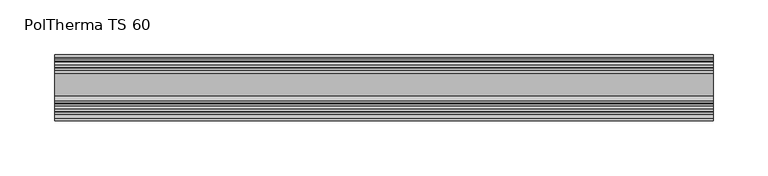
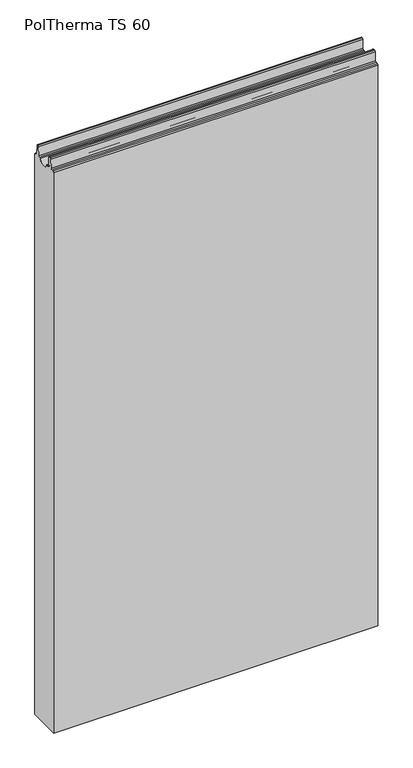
"""IFC4 building model written with IfcOpenShell, lengths in millimetres: plate geometry, Europanels_Poltherma TS_Hz : PolTherma TS 60."""

from ifc_helpers import new_model, si_unit, frame, origin, place, context, project, spatial, polyline, circle_curve, source, transform, mapped, element, save
from ifc_brep_helpers import plane_surface, cylinder_surface, revolved_surface, advanced_brep


def poltherma_ts_60_b4b8779d(model_context):
    return source(origin(), model_context, "Body", "AdvancedBrep", [
        advanced_brep(
        [(300.0, -30.0, 1096.5011047), (300.0, -30.0, 0.0), (300.0, 30.0, 0.0), (300.0, 30.0, 1096.5011047), (300.0, 28.0, 1098.5011047), (300.0, 26.2557869, 1098.5011047), (300.0, 24.2596673, 1100.3765791), (300.0, 23.1836057, 1117.6256302), (300.0, 20.8891901, 1119.5129093), (300.0, 18.8727407, 1117.5838246), (300.0, 18.1120505, 1100.4152514), (300.0, 16.113894, 1098.5011047), (300.0, 13.3234285, 1098.5011047), (300.0, -7.9234285, 1098.5011047), (300.0, -11.9117672, 1098.5011047), (300.0, -13.7101357, 1100.2244834), (300.0, -14.4498501, 1117.5862394), (300.0, -16.4480373, 1119.5011047), (300.0, -19.1874198, 1119.5011047), (300.0, -21.1836192, 1117.624345), (300.0, -22.2483736, 1100.3778643), (300.0, -24.244573, 1098.5011047), (300.0, -28.0, 1098.5011047), (-300.0, -30.0, 1096.5011047), (-300.0, -28.0, 1098.5011047), (-300.0, -24.244573, 1098.5011047), (-300.0, -22.2483736, 1100.3778643), (-300.0, -21.1836192, 1117.624345), (-300.0, -19.1874198, 1119.5011047), (-300.0, -16.4480373, 1119.5011047), (-300.0, -14.4498501, 1117.5862394), (-300.0, -13.7101357, 1100.2244834), (-300.0, -11.9117672, 1098.5011047), (-300.0, -7.9234285, 1098.5011047), (-300.0, 13.3234285, 1098.5011047), (-300.0, 16.113894, 1098.5011047), (-300.0, 18.1120505, 1100.4152514), (-300.0, 18.8727407, 1117.5838246), (-300.0, 20.8891901, 1119.5129093), (-300.0, 23.1349611, 1117.6366155), (-300.0, 24.2596673, 1100.3765791), (-300.0, 26.2557869, 1098.5011047), (-300.0, 28.0, 1098.5011047), (-300.0, 30.0, 1096.5011047), (-300.0, 30.0, 0.0), (-300.0, -30.0, 0.0)],
        [
            (0, 1),
            (1, 2),
            (2, 3),
            (3, 4, circle_curve(frame((300.0, 28.0, 1096.5011047), z_axis=(1.0, 0.0, 0.0), x_axis=(0.0, 1.0, 0.0)), 2.0)),
            (4, 5),
            (5, 6, circle_curve(frame((300.0, 26.2557869, 1100.5011047), z_axis=(-1.0, 0.0, 0.0), x_axis=(0.0, 1.0, 0.0)), 2.0)),
            (6, 7),
            (7, 8, circle_curve(frame((300.0, 21.1234323, 1117.5111287), z_axis=(1.0, 0.0, 0.0), x_axis=(0.0, 1.0, 0.0)), 2.0154391)),
            (8, 9, circle_curve(frame((300.0, 20.8891901, 1117.4944815), z_axis=(1.0, 0.0, 0.0), x_axis=(0.0, 1.0, 0.0)), 2.0184277)),
            (9, 10),
            (10, 11, circle_curve(frame((300.0, 16.113894, 1100.5011047), z_axis=(-1.0, 0.0, 0.0), x_axis=(0.0, 1.0, 0.0)), 2.0)),
            (11, 12),
            (12, 13, circle_curve(frame((300.0, 2.7, 1101.354658), z_axis=(-1.0, 0.0, 0.0), x_axis=(0.0, 1.0, 0.0)), 11.0)),
            (13, 14),
            (14, 15, circle_curve(frame((300.0, -11.9117672, 1100.3011047), z_axis=(-1.0, 0.0, 0.0), x_axis=(0.0, 1.0, 0.0)), 1.8)),
            (15, 16),
            (16, 17, circle_curve(frame((300.0, -16.4480373, 1117.5011047), z_axis=(1.0, 0.0, 0.0), x_axis=(0.0, 1.0, 0.0)), 2.0)),
            (17, 18),
            (18, 19, circle_curve(frame((300.0, -19.1874198, 1117.5011047), z_axis=(1.0, 0.0, 0.0), x_axis=(0.0, 1.0, 0.0)), 2.0)),
            (19, 20),
            (20, 21, circle_curve(frame((300.0, -24.244573, 1100.5011047), z_axis=(-1.0, 0.0, 0.0), x_axis=(0.0, 1.0, 0.0)), 2.0)),
            (21, 22),
            (22, 0, circle_curve(frame((300.0, -28.0, 1096.5011047), z_axis=(1.0, 0.0, 0.0), x_axis=(0.0, 1.0, 0.0)), 2.0)),
            (23, 24, circle_curve(frame((-300.0, -28.0, 1096.5011047), z_axis=(-1.0, 0.0, 0.0), x_axis=(0.0, 1.0, 0.0)), 2.0)),
            (24, 25),
            (25, 26, circle_curve(frame((-300.0, -24.244573, 1100.5011047), z_axis=(1.0, 0.0, 0.0), x_axis=(0.0, 1.0, 0.0)), 2.0)),
            (26, 27),
            (27, 28, circle_curve(frame((-300.0, -19.1874198, 1117.5011047), z_axis=(-1.0, 0.0, 0.0), x_axis=(0.0, 1.0, 0.0)), 2.0)),
            (28, 29),
            (29, 30, circle_curve(frame((-300.0, -16.4480373, 1117.5011047), z_axis=(-1.0, 0.0, 0.0), x_axis=(0.0, 1.0, 0.0)), 2.0)),
            (30, 31),
            (31, 32, circle_curve(frame((-300.0, -11.9117672, 1100.3011047), z_axis=(1.0, 0.0, 0.0), x_axis=(0.0, 1.0, 0.0)), 1.8)),
            (32, 33),
            (33, 34, circle_curve(frame((-300.0, 2.7, 1101.354658), z_axis=(1.0, 0.0, 0.0), x_axis=(0.0, 1.0, 0.0)), 11.0)),
            (34, 35),
            (35, 36, circle_curve(frame((-300.0, 16.113894, 1100.5011047), z_axis=(1.0, 0.0, 0.0), x_axis=(0.0, 1.0, 0.0)), 2.0)),
            (36, 37),
            (37, 38, circle_curve(frame((-300.0, 20.8891901, 1117.4944815), z_axis=(-1.0, 0.0, 0.0), x_axis=(0.0, 1.0, 0.0)), 2.0184277)),
            (38, 39, circle_curve(frame((-300.0, 21.1234323, 1117.5111287), z_axis=(-1.0, 0.0, 0.0), x_axis=(0.0, 1.0, 0.0)), 2.0154391)),
            (39, 40),
            (40, 41, circle_curve(frame((-300.0, 26.2557869, 1100.5011047), z_axis=(1.0, 0.0, 0.0), x_axis=(0.0, 1.0, 0.0)), 2.0)),
            (41, 42),
            (42, 43, circle_curve(frame((-300.0, 28.0, 1096.5011047), z_axis=(-1.0, 0.0, 0.0), x_axis=(0.0, 1.0, 0.0)), 2.0)),
            (43, 44),
            (44, 45),
            (45, 23),
            (0, 23),
            (45, 1),
            (2, 44),
            (43, 3),
            (42, 4),
            (41, 5),
            (40, 6),
            (39, 7),
            (38, 8),
            (37, 9),
            (36, 10),
            (35, 11),
            (34, 12),
            (33, 13),
            (32, 14),
            (31, 15),
            (30, 16),
            (29, 17),
            (28, 18),
            (27, 19),
            (26, 20),
            (25, 21),
            (24, 22),
        ],
        [
            plane_surface(frame((300.0, -30.0, 0.0), z_axis=(1.0, 0.0, 0.0), x_axis=(0.0, 0.0, -1.0))),
            plane_surface(frame((-300.0, -30.0, 0.0), z_axis=(-1.0, 0.0, 0.0), x_axis=(0.0, 0.0, 1.0))),
            plane_surface(frame((300.0, -30.0, 1096.5011047), z_axis=(0.0, -1.0, 0.0), x_axis=(-1.0, 0.0, 0.0))),
            plane_surface(frame((300.0, 30.0, 0.0), z_axis=(0.0, 1.0, 0.0), x_axis=(-1.0, 0.0, 0.0))),
            cylinder_surface(frame((-300.0, 28.0, 1096.5011047), z_axis=(1.0, 0.0, 0.0), x_axis=(0.0, 1.0, 0.0)), 2.0),
            plane_surface(frame((300.0, 28.0, 1098.5011047), z_axis=(0.0, 1.862502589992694e-12, 1.0), x_axis=(-1.0, 0.0, 0.0))),
            revolved_surface(polyline([(-300.0, 28.2557869, 1100.5011047), (300.0, 28.2557869, 1100.5011047)]), (-300.0, 26.2557869, 1100.5011047), (-1.0, 0.0, 0.0)),
            plane_surface(frame((300.0, 24.2596673, 1100.3765791), z_axis=(0.0, 0.9980597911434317, 0.06226277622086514), x_axis=(-1.0, 0.0, 0.0))),
            cylinder_surface(frame((-300.0, 21.1234323, 1117.5111287), z_axis=(1.0, 0.0, 0.0), x_axis=(0.0, 1.0, 0.0)), 2.0154391),
            cylinder_surface(frame((-300.0, 20.8891901, 1117.4944815), z_axis=(1.0, 0.0, 0.0), x_axis=(0.0, 1.0, 0.0)), 2.0184277),
            plane_surface(frame((300.0, 18.8727407, 1117.5838246), z_axis=(0.0, -0.9990198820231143, 0.04426370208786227), x_axis=(-1.0, 0.0, 0.0))),
            revolved_surface(polyline([(-300.0, 18.113894, 1100.5011047), (300.0, 18.113894, 1100.5011047)]), (-300.0, 16.113894, 1100.5011047), (-1.0, 0.0, 0.0)),
            plane_surface(frame((300.0, 16.113894, 1098.5011047), z_axis=(0.0, 0.0, 1.0), x_axis=(-1.0, 0.0, 0.0))),
            revolved_surface(polyline([(-300.0, 13.7, 1101.354658), (300.0, 13.7, 1101.354658)]), (-300.0, 2.7, 1101.354658), (-1.0, 0.0, 0.0)),
            plane_surface(frame((300.0, -7.9234285, 1098.5011047), z_axis=(0.0, 0.0, 1.0), x_axis=(-1.0, 0.0, 0.0))),
            revolved_surface(polyline([(-300.0, -10.1117672, 1100.3011047), (300.0, -10.1117672, 1100.3011047)]), (-300.0, -11.9117672, 1100.3011047), (-1.0, 0.0, 0.0)),
            plane_surface(frame((300.0, -13.7101357, 1100.2244834), z_axis=(0.0, 0.9990935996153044, 0.04256734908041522), x_axis=(-1.0, 0.0, 0.0))),
            cylinder_surface(frame((-300.0, -16.4480373, 1117.5011047), z_axis=(1.0, 0.0, 0.0), x_axis=(0.0, 1.0, 0.0)), 2.0),
            plane_surface(frame((300.0, -16.4480373, 1119.5011047), z_axis=(0.0, 0.0, 1.0), x_axis=(-1.0, 0.0, 0.0))),
            cylinder_surface(frame((-300.0, -19.1874198, 1117.5011047), z_axis=(1.0, 0.0, 0.0), x_axis=(0.0, 1.0, 0.0)), 2.0),
            plane_surface(frame((300.0, -21.1836192, 1117.624345), z_axis=(0.0, -0.9980996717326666, 0.06162016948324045), x_axis=(-1.0, 0.0, 0.0))),
            revolved_surface(polyline([(-300.0, -22.244573, 1100.5011047), (300.0, -22.244573, 1100.5011047)]), (-300.0, -24.244573, 1100.5011047), (-1.0, 0.0, 0.0)),
            plane_surface(frame((300.0, -24.244573, 1098.5011047), z_axis=(0.0, 0.0, 1.0), x_axis=(-1.0, 0.0, 0.0))),
            cylinder_surface(frame((-300.0, -28.0, 1096.5011047), z_axis=(1.0, 0.0, 0.0), x_axis=(0.0, 1.0, 0.0)), 2.0),
            plane_surface(frame((300.0, -30.0, 0.0), z_axis=(0.0, 0.0, -1.0), x_axis=(-1.0, 0.0, 0.0))),
        ],
        [
            (0, [[1, 2, 3, 4, 5, 6, 7, 8, 9, 10, 11, 12, 13, 14, 15, 16, 17, 18, 19, 20, 21, 22, 23]]),
            (1, [[24, 25, 26, 27, 28, 29, 30, 31, 32, 33, 34, 35, 36, 37, 38, 39, 40, 41, 42, 43, 44, 45, 46]]),
            (2, [[-1, 47, -46, 48]]),
            (3, [[-3, 49, -44, 50]]),
            (4, [[-4, -50, -43, 51]]),
            (5, [[-5, -51, -42, 52]]),
            (6, [[-6, -52, -41, 53]]),
            (7, [[-7, -53, -40, 54]]),
            (8, [[-8, -54, -39, 55]]),
            (9, [[-9, -55, -38, 56]]),
            (10, [[-10, -56, -37, 57]]),
            (11, [[-11, -57, -36, 58]]),
            (12, [[-12, -58, -35, 59]]),
            (13, [[-13, -59, -34, 60]]),
            (14, [[-14, -60, -33, 61]]),
            (15, [[-15, -61, -32, 62]]),
            (16, [[-16, -62, -31, 63]]),
            (17, [[-17, -63, -30, 64]]),
            (18, [[-18, -64, -29, 65]]),
            (19, [[-19, -65, -28, 66]]),
            (20, [[-20, -66, -27, 67]]),
            (21, [[-21, -67, -26, 68]]),
            (22, [[-22, -68, -25, 69]]),
            (23, [[-23, -69, -24, -47]]),
            (24, [[-2, -48, -45, -49]]),
        ],
    ),
    ])


if __name__ == "__main__":
    model = new_model("IFC4")
    model_context = context("Model", 3, world=origin())
    ifc_project = project(units=[si_unit("LENGTHUNIT", "METRE", prefix="MILLI")], contexts=[model_context])
    site = spatial("IfcSite", under=ifc_project)
    building = spatial("IfcBuilding", under=site)
    placement = place(None, origin())
    poltherma_ts_60_shape = poltherma_ts_60_b4b8779d(model_context)
    element("IfcPlate", 1, ObjectType="Europanels_Poltherma TS_Hz : PolTherma TS 60", at=placement, inside=building, context=model_context, shape_type="MappedRepresentation", body=[
        mapped(poltherma_ts_60_shape, transform((0.0, 0.0, 0.0), x_axis=(1.0, 0.0, 0.0), y_axis=(0.0, 1.0, 0.0), z_axis=(0.0, 0.0, 1.0))),
    ])
    save(model, "model.ifc")
